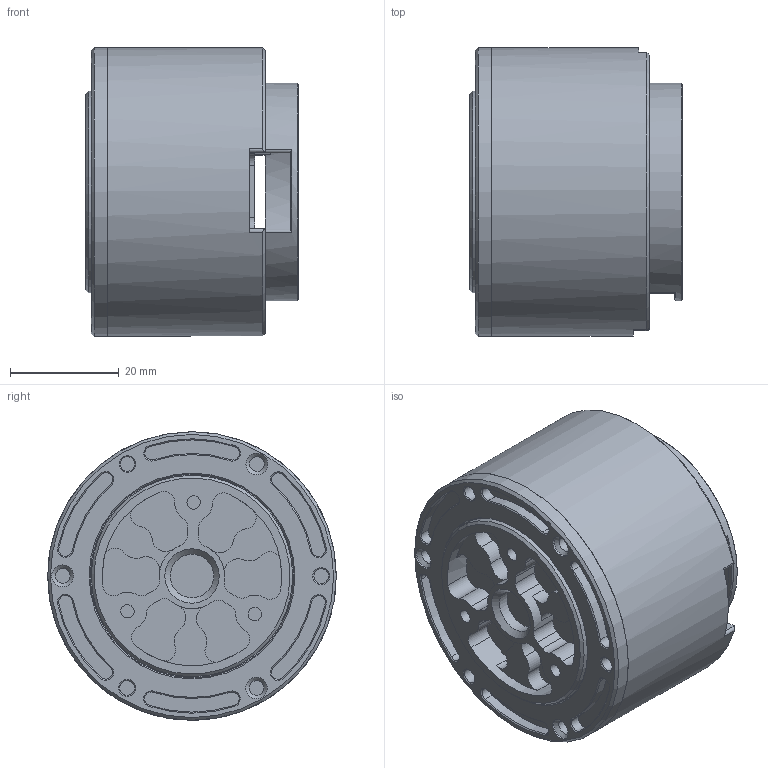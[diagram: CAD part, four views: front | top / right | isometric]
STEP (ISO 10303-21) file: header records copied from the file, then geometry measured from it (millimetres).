
FILE_DESCRIPTION(/* description */ (''),/* implementation_level */ '2;1');
FILE_NAME(/* name */ 'E:\登矩电机\2-项目\1.电机-CNC\G43\安装图\4310-10SHS安装图.stp',/* time_stamp */ '2023-08-02T22:31:39+08:00',/* author */ ('chao'),/* organization */ (''),/* preprocessor_version */ 'ST-DEVELOPER v18',/* originating_system */ 'Autodesk Inventor 2020',/* authorisation */ '');
FILE_SCHEMA (('CONFIG_CONTROL_DESIGN'));
Length unit declared in the file: millimetre
Products named in the file (4): 4310-10SHS安装图; V6SHS加长后机壳-安装图; X4后盖; V6轴承盖
Assembly tree (3 placements, depth 2):
  4310-10SHS安装图
    V6SHS加长后机壳-安装图
    X4后盖
    V6轴承盖
Bounding box: 39 x 53 x 53 mm (x, y, z)
Volume: 67189.7 mm3; surface area: 18728.5 mm2
Topology: 3 solids, 3 shells, 253 faces, 680 edges, 464 vertices
Faces by surface type: cylinder 143, plane 67, cone 41, torus 2
Full cylindrical faces by diameter (mm): 1.6 x4, 2 x6, 2.2 x2, 2.459 x3, 2.7 x6, 4 x5, 6 x1, 7.6 x1, 8 x1, 15 x1, 37 x1, 37.4 x1, 38 x1, 40 x2, 44 x2, 53 x2
Entity records: 8435 total; most frequent: DIRECTION 1621, CARTESIAN_POINT 1448, ORIENTED_EDGE 1360, AXIS2_PLACEMENT_3D 687, EDGE_CURVE 680, VERTEX_POINT 464, CIRCLE 427, EDGE_LOOP 302
